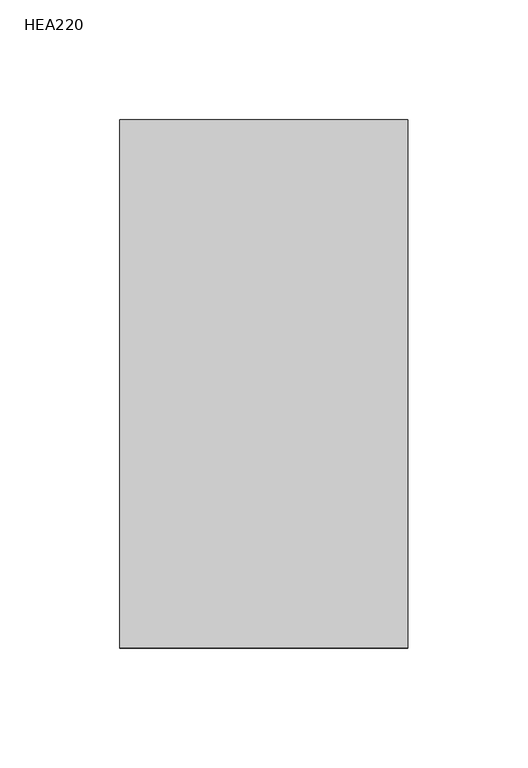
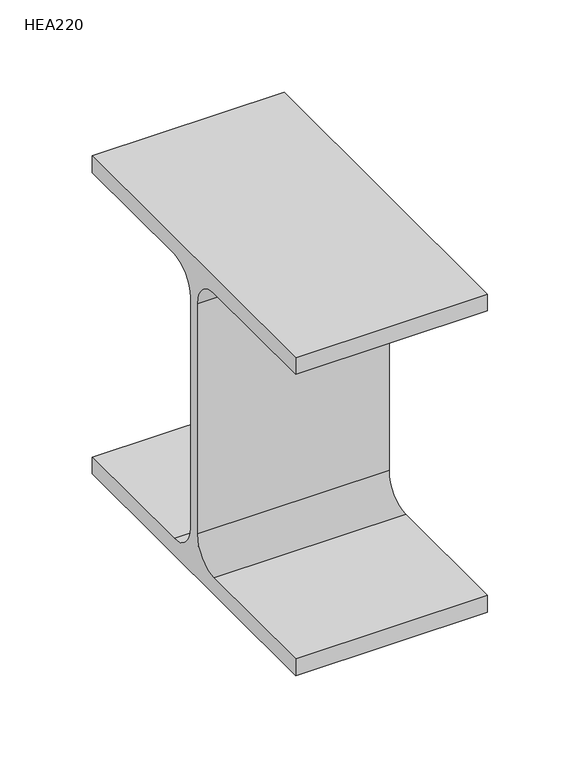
"""IFC4 building model written with IfcOpenShell, lengths in millimetres: beam geometry, HE-A : HEA220."""

import ifcopenshell
import ifcopenshell.guid

model = None  # the IFC model being written
_history = None  # IfcOwnerHistory: only IFC2X3 demands one
_inside = {}  # id of a spatial element -> (the spatial element, [elements in it])
_under = {}  # id of a project, library or spatial element -> (it, [spatial elements below it])
_declared = {}  # id of a project -> (the project, [libraries it declares])
_typed = {}  # id of a type object -> (the type object, [elements of that type])
_made_of = {}  # id of a material, layer set ... -> (it, [elements and type objects made of it])


def new_model(schema):
    """Start an empty IFC model of exactly this schema.

    Asked for "IFC4X3", IfcOpenShell would pick the latest addendum, in which some entities
    have other attributes; the version numbers below select the first issue.
    IFC2X3 requires an IfcOwnerHistory on every rooted entity: one is made here for all.
    """
    global model, _history
    if schema == "IFC4X3":
        model = ifcopenshell.file(schema_version=(4, 3, 0, 0))
    else:
        model = ifcopenshell.file(schema=schema)
    _inside.clear()
    _under.clear()
    _declared.clear()
    _typed.clear()
    _made_of.clear()
    _history = None
    if model.schema == "IFC2X3":
        org = make("IfcOrganization", Name="unknown")
        user = make(
            "IfcPersonAndOrganization",
            ThePerson=make("IfcPerson", FamilyName="unknown"),
            TheOrganization=org,
        )
        app = make(
            "IfcApplication",
            ApplicationDeveloper=org,
            Version="unknown",
            ApplicationFullName="unknown",
            ApplicationIdentifier="unknown",
        )
        _history = make(
            "IfcOwnerHistory",
            OwningUser=user,
            OwningApplication=app,
            ChangeAction="ADDED",
            CreationDate=0,
        )
    return model


def make(cls, **values):
    """One entity of the class cls with the attributes given. An attribute that is None is left unset."""
    return model.create_entity(
        cls, **{name: value for name, value in values.items() if value is not None}
    )


def rooted(cls, **values):
    """An entity with a GlobalId (a new one), such as an element, a storey or a relation."""
    return make(cls, GlobalId=ifcopenshell.guid.new(), OwnerHistory=_history, **values)


def si_unit(unit_type, name, prefix=None):
    """IfcSIUnit, for example si_unit("LENGTHUNIT", "METRE", prefix="MILLI")."""
    return make("IfcSIUnit", UnitType=unit_type, Prefix=prefix, Name=name)


def assignment(units):
    """IfcUnitAssignment: the units of a project."""
    return None if units is None else make("IfcUnitAssignment", Units=units)


def point(xyz):
    """IfcCartesianPoint."""
    return None if xyz is None else make("IfcCartesianPoint", Coordinates=xyz)


def direction(xyz):
    """IfcDirection."""
    return None if xyz is None else make("IfcDirection", DirectionRatios=xyz)


def frame(location, z_axis=None, x_axis=None):
    """IfcAxis2Placement3D, a coordinate frame: its origin and axes. An axis left out is left unset."""
    return make(
        "IfcAxis2Placement3D",
        Location=point(location),
        Axis=direction(z_axis),
        RefDirection=direction(x_axis),
    )


def frame_2d(location, x_axis=None):
    """IfcAxis2Placement2D, a coordinate frame in the plane: its origin and x axis."""
    return make(
        "IfcAxis2Placement2D", Location=point(location), RefDirection=direction(x_axis)
    )


def origin():
    """The frame at (0, 0, 0) with its axes left unset."""
    return frame((0.0, 0.0, 0.0))


def place(relative_to, where):
    """IfcLocalPlacement: puts the frame where relative to a parent placement (None: the world)."""
    return make(
        "IfcLocalPlacement", PlacementRelTo=relative_to, RelativePlacement=where
    )


def context(
    kind, dimensions, precision=None, world=None, true_north=None, identifier=None
):
    """IfcGeometricRepresentationContext, for example the 3D "Model" context."""
    return make(
        "IfcGeometricRepresentationContext",
        ContextIdentifier=identifier,
        ContextType=kind,
        CoordinateSpaceDimension=dimensions,
        Precision=precision,
        WorldCoordinateSystem=world,
        TrueNorth=true_north,
    )


def project(units=None, contexts=None):
    """IfcProject with its units and contexts."""
    return rooted(
        "IfcProject",
        Name="project",
        RepresentationContexts=contexts,
        UnitsInContext=assignment(units),
    )


def spatial(cls, under=None, at=None, **own):
    """A site, building, storey or space (cls), placed at a placement, below another one or the project."""
    s = rooted(cls, ObjectPlacement=at, **own)
    if under is not None:
        _under.setdefault(under.id(), (under, []))[1].append(s)
    return s


def polyline(points):
    """IfcPolyline through the points."""
    return make("IfcPolyline", Points=[point(p) for p in points])


def circle_curve(where, radius):
    """IfcCircle in the frame where."""
    return make("IfcCircle", Position=where, Radius=radius)


def trimmed(basis, trim1, trim2, sense, master):
    """IfcTrimmedCurve: the piece of a basis curve between two trims."""
    return make(
        "IfcTrimmedCurve",
        BasisCurve=basis,
        Trim1=trim1,
        Trim2=trim2,
        SenseAgreement=sense,
        MasterRepresentation=master,
    )


def segment(curve, same_sense, transition):
    """IfcCompositeCurveSegment."""
    return make(
        "IfcCompositeCurveSegment",
        Transition=transition,
        SameSense=same_sense,
        ParentCurve=curve,
    )


def composite_curve(segments, self_intersect=None):
    """IfcCompositeCurve: segments joined end to end."""
    return make("IfcCompositeCurve", Segments=segments, SelfIntersect=self_intersect)


def outline(outer, holes=None, kind="AREA"):
    """IfcArbitraryClosedProfileDef: a profile drawn as a closed curve; with holes, ...WithVoids."""
    if holes is None:
        return make("IfcArbitraryClosedProfileDef", ProfileType=kind, OuterCurve=outer)
    return make(
        "IfcArbitraryProfileDefWithVoids",
        ProfileType=kind,
        OuterCurve=outer,
        InnerCurves=holes,
    )


def extrude(swept, where, along, depth):
    """IfcExtrudedAreaSolid: the profile swept, set in the frame where, extruded along a direction by depth."""
    return make(
        "IfcExtrudedAreaSolid",
        SweptArea=swept,
        Position=where,
        ExtrudedDirection=direction(along),
        Depth=depth,
    )


def shape(context_of_items, identifier, shape_type, items):
    """IfcShapeRepresentation: the items that make up one representation, for example the "Body"."""
    return make(
        "IfcShapeRepresentation",
        ContextOfItems=context_of_items,
        RepresentationIdentifier=identifier,
        RepresentationType=shape_type,
        Items=items,
    )


def source(mapping_origin, context_of_items, identifier, shape_type, items):
    """IfcRepresentationMap: a shape defined once, which mapped items show again and again."""
    return make(
        "IfcRepresentationMap",
        MappingOrigin=mapping_origin,
        MappedRepresentation=shape(context_of_items, identifier, shape_type, items),
    )


def transform(
    local_origin,
    x_axis=None,
    y_axis=None,
    z_axis=None,
    scale=None,
    scale2=None,
    scale3=None,
    uniform=True,
):
    """IfcCartesianTransformationOperator3D, or its non-uniform kind. x_axis, y_axis, z_axis: its Axis1, 2, 3."""
    if uniform:
        return make(
            "IfcCartesianTransformationOperator3D",
            Axis1=direction(x_axis),
            Axis2=direction(y_axis),
            LocalOrigin=point(local_origin),
            Scale=scale,
            Axis3=direction(z_axis),
        )
    return make(
        "IfcCartesianTransformationOperator3DnonUniform",
        Axis1=direction(x_axis),
        Axis2=direction(y_axis),
        LocalOrigin=point(local_origin),
        Scale=scale,
        Axis3=direction(z_axis),
        Scale2=scale2,
        Scale3=scale3,
    )


def mapped(mapping_source, mapping_target):
    """IfcMappedItem: shows the shape of a source again, moved by a transform."""
    return make(
        "IfcMappedItem", MappingSource=mapping_source, MappingTarget=mapping_target
    )


def made_of(thing, what):
    """Note that an element or type object is made of a material, layer set ...; save() writes the relation."""
    if what is not None:
        _made_of.setdefault(what.id(), (what, []))[1].append(thing)
    return thing


def element(
    cls,
    number,
    at=None,
    inside=None,
    cuts=None,
    type_object=None,
    material=None,
    context=None,
    identifier="Body",
    shape_type=None,
    held_by="IfcProductDefinitionShape",
    body=None,
    shapes=None,
    **own,
):
    """One element of the class cls, such as IfcWall. Its Tag is "e" and its number.

    at: its placement. inside: the storey or other place that contains it. cuts: it is an
    opening in that element (IfcRelVoidsElement). A single representation is given by context,
    identifier, shape_type and body (its items); several are given by shapes. held_by: the class
    of the entity that holds the representations. save() writes the other relations.
    """
    e = rooted(cls, Tag="e%d" % number, ObjectPlacement=at, **own)
    if body is not None:
        shapes = [shape(context, identifier, shape_type, body)]
    if shapes is not None:
        e.Representation = make(held_by, Representations=shapes)
    if inside is not None:
        _inside.setdefault(inside.id(), (inside, []))[1].append(e)
    if cuts is not None:
        rooted(
            "IfcRelVoidsElement", RelatingBuildingElement=cuts, RelatedOpeningElement=e
        )
    if type_object is not None:
        _typed.setdefault(type_object.id(), (type_object, []))[1].append(e)
    return made_of(e, material)


def aggregate(whole, parts):
    """IfcRelAggregates: a whole, such as a stair, and the parts it consists of."""
    return rooted("IfcRelAggregates", RelatingObject=whole, RelatedObjects=parts)


def save(model, path):
    """Write the relations noted so far, then the file.

    IfcRelAggregates (storeys below a building ...), IfcRelContainedInSpatialStructure (elements
    in a storey), IfcRelDefinesByType, IfcRelAssociatesMaterial and IfcRelDeclares: one each for
    every whole, place, type object, material and project.
    """
    for whole, parts in _under.values():
        aggregate(whole, parts)
    for where, things in _inside.values():
        rooted(
            "IfcRelContainedInSpatialStructure",
            RelatedElements=things,
            RelatingStructure=where,
        )
    for kind, things in _typed.values():
        rooted("IfcRelDefinesByType", RelatedObjects=things, RelatingType=kind)
    for what, things in _made_of.values():
        rooted("IfcRelAssociatesMaterial", RelatedObjects=things, RelatingMaterial=what)
    for by, libraries in _declared.values():
        rooted("IfcRelDeclares", RelatingContext=by, RelatedDefinitions=libraries)
    model.write(path)


def hea220_396262f0(model_context):
    return source(origin(), model_context, "Body", "SweptSolid", [
        extrude(outline(composite_curve([segment(polyline([(110.0, -94.0), (110.0, -105.0), (-110.0, -105.0), (-110.0, -94.0), (-21.5, -94.0)]), True, "CONTINUOUS"), segment(trimmed(circle_curve(frame_2d((-21.5, -76.0)), 18.0), [point((-21.5, -94.0))], [point((-3.5, -76.0))], True, "CARTESIAN"), True, "CONTINUOUS"), segment(polyline([(-3.5, -76.0), (-3.5, 76.0)]), True, "CONTINUOUS"), segment(trimmed(circle_curve(frame_2d((-21.5, 76.0)), 18.0), [point((-3.5, 76.0))], [point((-21.5, 94.0))], True, "CARTESIAN"), True, "CONTINUOUS"), segment(polyline([(-21.5, 94.0), (-110.0, 94.0), (-110.0, 105.0), (110.0, 105.0), (110.0, 94.0), (21.5, 94.0)]), True, "CONTINUOUS"), segment(trimmed(circle_curve(frame_2d((21.5, 76.0)), 18.0), [point((21.5, 94.0))], [point((3.5, 76.0))], True, "CARTESIAN"), True, "CONTINUOUS"), segment(polyline([(3.5, 76.0), (3.5, -76.0)]), True, "CONTINUOUS"), segment(trimmed(circle_curve(frame_2d((21.5, -76.0)), 18.0), [point((3.5, -76.0))], [point((21.5, -94.0))], True, "CARTESIAN"), True, "CONTINUOUS"), segment(polyline([(21.5, -94.0), (110.0, -94.0)]), True, "CONTINUOUS")], self_intersect=False)), frame((-59.95, 0.0, 0.0), z_axis=(1.0, 0.0, 0.0), x_axis=(0.0, 1.0, 0.0)), (0.0, 0.0, 1.0), 119.9),
    ])


if __name__ == "__main__":
    model = new_model("IFC4")
    model_context = context("Model", 3, world=origin())
    ifc_project = project(units=[si_unit("LENGTHUNIT", "METRE", prefix="MILLI")], contexts=[model_context])
    site = spatial("IfcSite", under=ifc_project)
    building = spatial("IfcBuilding", under=site)
    placement = place(None, origin())
    hea220_shape = hea220_396262f0(model_context)
    element("IfcBeam", 1, ObjectType="HE-A : HEA220", at=placement, inside=building, context=model_context, shape_type="MappedRepresentation", body=[
        mapped(hea220_shape, transform((0.0, 0.0, 0.0), x_axis=(1.0, 0.0, 0.0), y_axis=(0.0, 1.0, 0.0), z_axis=(0.0, 0.0, 1.0))),
    ])
    save(model, "model.ifc")
